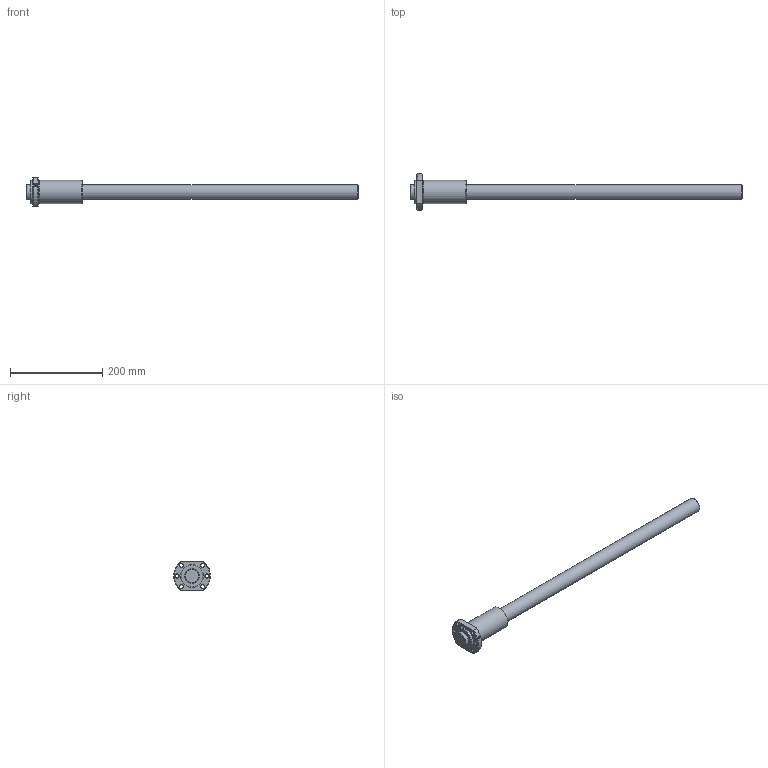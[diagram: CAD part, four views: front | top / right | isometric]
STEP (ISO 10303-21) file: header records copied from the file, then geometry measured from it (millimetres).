
FILE_DESCRIPTION(/* description */ ('STEP AP214'),/* implementation_level */ '2;1');
FILE_NAME(/* name */ 'EPB3210-6RRG0+720LC0(588G000)_rev',/* time_stamp */ '2023-08-03T13:28:21+02:00',/* author */ ('License CC BY-ND 4.0'),/* organization */ ('CADENAS'),/* preprocessor_version */ 'ST-DEVELOPER v19.3',/* originating_system */ 'PARTsolutions',/* authorisation */ ' ');
FILE_SCHEMA (('AUTOMOTIVE_DESIGN {1 0 10303 214 3 1 1}'));
Length unit declared in the file: millimetre
Products named in the file (3): EPB3210-6RRG0+720LC0(588G000)_rev; EPB 3210-6RR Nut1; EPB 3210-65880 Shaft1
Assembly tree (2 placements, depth 2):
  EPB3210-6RRG0+720LC0(588G000)_rev
    EPB 3210-6RR Nut1
    EPB 3210-65880 Shaft1
Bounding box: 720 x 79.74 x 62 mm (x, y, z)
Volume: 731855 mm3; surface area: 112523.2 mm2
Topology: 2 solids, 2 shells, 32 faces, 72 edges, 47 vertices
Faces by surface type: cylinder 14, cone 9, plane 9
Full cylindrical faces by diameter (mm): 4.917 x1, 9 x6, 32 x2, 47 x1, 50 x2
Entity records: 935 total; most frequent: CARTESIAN_POINT 177, DIRECTION 148, ORIENTED_EDGE 106, AXIS2_PLACEMENT_3D 70, EDGE_LOOP 68, FACE_BOUND 68, EDGE_CURVE 53, VERTEX_POINT 45
